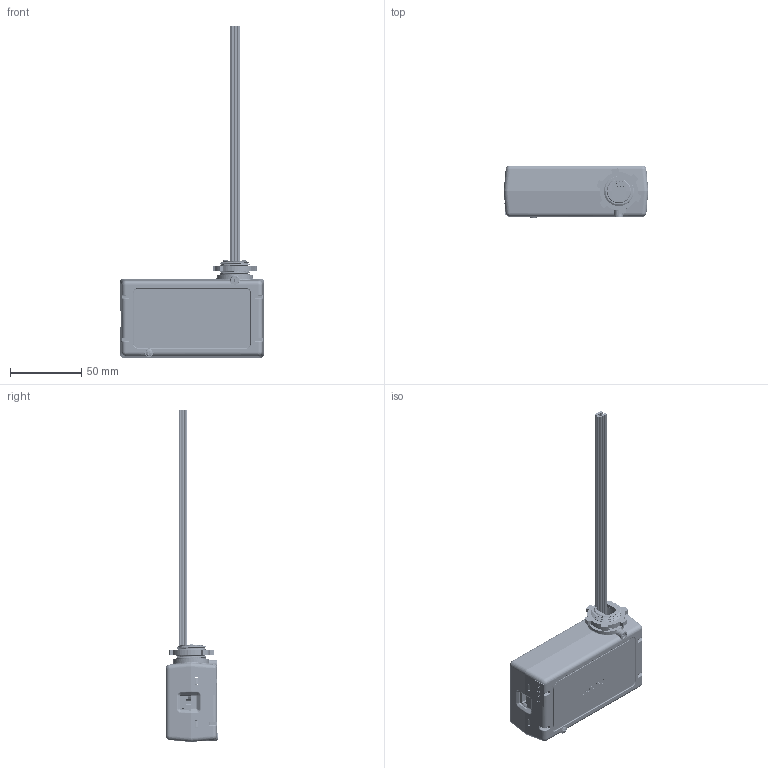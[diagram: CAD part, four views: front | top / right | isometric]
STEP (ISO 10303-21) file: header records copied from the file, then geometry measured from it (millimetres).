
FILE_DESCRIPTION (( 'STEP AP214' ), '1' );
FILE_NAME ('ORA1035-M01.STEP', '2017-03-22T18:31:33', ( 'LEVADMIN' ), ( 'LEVITON' ), 'SwSTEP 2.0', 'SolidWorks 2015', '' );
FILE_SCHEMA (( 'AUTOMOTIVE_DESIGN' ));
Length unit declared in the file: millimetre
Products named in the file (11): OX62067-M01 ref; ORB1467-M01; REFERENCE WIRE BUNDEL; OFB1405-M01; ORB0929-M05; OXA6792-D01; 0G32638890000; BAB1033-M01; BAB1034-M01; ORA1035-M01; RM81308400000
Assembly tree (9 placements, depth 2):
  ORA1035-M01
    BAB1034-M01
    BAB1033-M01
    0G32638890000
    OXA6792-D01
    ORB0929-M05
    OFB1405-M01
    REFERENCE WIRE BUNDEL
    ORB1467-M01
    OX62067-M01 ref
  RM81308400000
Bounding box: 101.2 x 36.89 x 232.38 mm (x, y, z)
Volume: 55482.1 mm3; surface area: 87590.2 mm2
Topology: 21 solids, 441 shells, 5195 faces, 18825 edges, 13948 vertices
Faces by surface type: plane 3004, cylinder 1889, bspline 143, torus 100, cone 39, sphere 20
Entity records: 282729 total; most frequent: CARTESIAN_POINT 78201, ORIENTED_EDGE 30647, DIRECTION 30518, EDGE_CURVE 18799, VERTEX_POINT 13948, VECTOR 11380, LINE 11380, AXIS2_PLACEMENT_3D 9569
